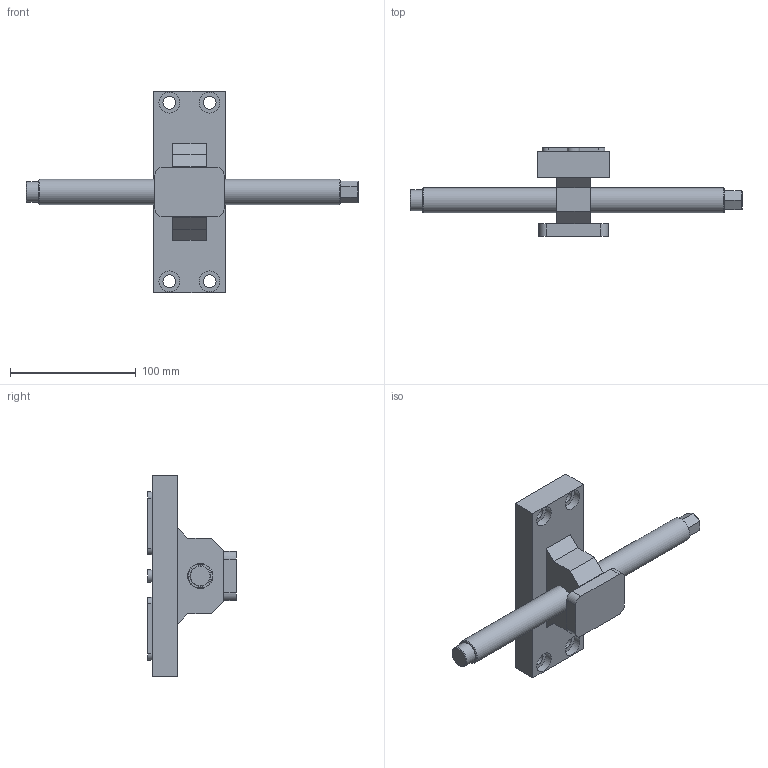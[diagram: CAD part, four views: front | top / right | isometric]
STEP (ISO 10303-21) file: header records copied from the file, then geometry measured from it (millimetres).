
FILE_DESCRIPTION (( 'STEP AP214' ), '1' );
FILE_NAME ('49150-TG125.STEP', '2020-04-06T08:26:32', ( '' ), ( '' ), 'SwSTEP 2.0', 'SolidWorks 2019', '' );
FILE_SCHEMA (( 'AUTOMOTIVE_DESIGN' ));
Length unit declared in the file: millimetre
Products named in the file (1): 49150-TG125
Bounding box: 264 x 70.5 x 160 mm (x, y, z)
Volume: 329391.6 mm3; surface area: 54985.3 mm2
Topology: 1 solids, 1 shells, 89 faces, 209 edges, 135 vertices
Faces by surface type: plane 65, cylinder 21, cone 3
Full cylindrical faces by diameter (mm): 10.2 x4, 16.5 x5, 20 x2
Entity records: 2857 total; most frequent: DIRECTION 414, CARTESIAN_POINT 408, ORIENTED_EDGE 378, EDGE_CURVE 189, VECTOR 144, LINE 144, AXIS2_PLACEMENT_3D 135, VERTEX_POINT 129
